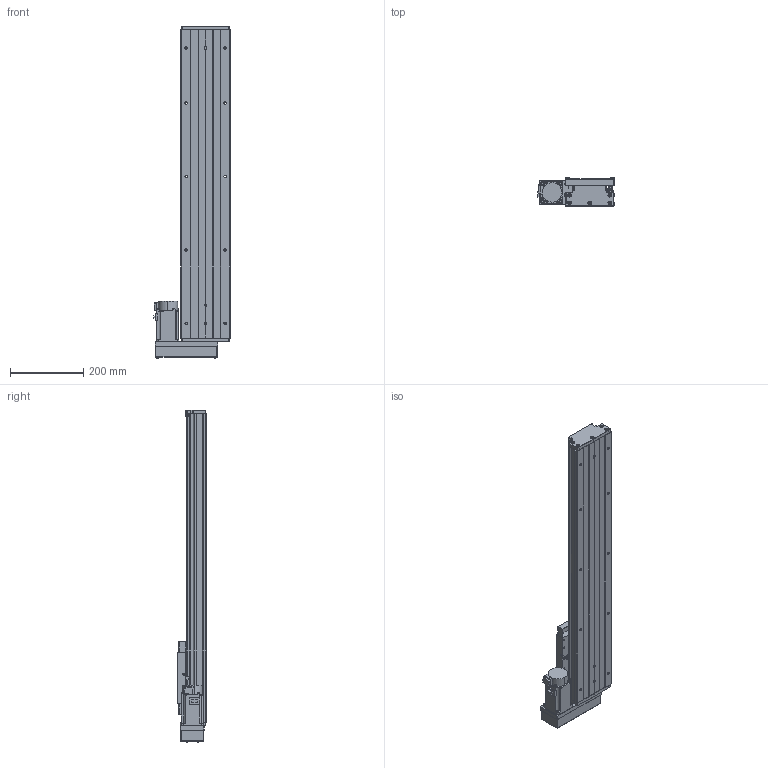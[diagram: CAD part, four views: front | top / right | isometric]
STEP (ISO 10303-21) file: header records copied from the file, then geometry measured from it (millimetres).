
FILE_DESCRIPTION (( 'STEP AP203' ), '1' );
FILE_NAME ('GTH14-600-BL-M40-C4.step', '2023-06-30T08:40:39', ( '微软用户' ), ( '微软中国' ), 'SwSTEP 2.0', 'SolidWorks 2020', '' );
FILE_SCHEMA (( 'CONFIG_CONTROL_DESIGN' ));
Length unit declared in the file: millimetre
Products named in the file (19): GBT 70.1-M3℅5; GTH14-015-2_CTHA86-015-2; GTH14-005; GBT77-2000 M3×3; GTH14-033; GB1155-6X6; GTH14-031; GTH14-600-BL-M40-C4; GBT70.1 M5℅16; GBT 70.2-M3¡Á5_M3¡Á6; CTHA60-017; す晦芛蹟隊 M3℅5; GTH14-001_600; EE_SX911P_R; HG-KN43J-S100; GTH14-002_GTH14-002; CTHA60-016; GBT 70.2-M4¡Á35_M4¡Á35; GTH14-004
Assembly tree (58 placements, depth 2):
  GTH14-600-BL-M40-C4
    GTH14-001_600
    GTH14-002_GTH14-002
    GTH14-004
    GTH14-005
    GB1155-6X6  x2
    GBT70.1 M5℅16  x10
    CTHA60-017  x3
    EE_SX911P_R  x3
    CTHA60-016  x2
    GBT 70.1-M3℅5  x6
    GBT77-2000 M3×3  x6
    GTH14-031
    GBT 70.2-M3¡Á5_M3¡Á6  x8
    す晦芛蹟隊 M3℅5  x6
    HG-KN43J-S100
    GBT 70.2-M4¡Á35_M4¡Á35  x4
    GTH14-015-2_CTHA86-015-2
    GTH14-033
Bounding box: 209.3 x 78 x 904.2 mm (x, y, z)
Volume: 5045546.5 mm3; surface area: 857501.4 mm2
Topology: 61 solids, 61 shells, 2453 faces, 5833 edges, 3594 vertices
Faces by surface type: plane 1307, cylinder 656, cone 314, torus 124, sphere 32, bspline 20
Entity records: 44158 total; most frequent: CARTESIAN_POINT 9857, DIRECTION 6489, ORIENTED_EDGE 6356, EDGE_CURVE 3178, AXIS2_PLACEMENT_3D 2218, VECTOR 2053, LINE 2053, VERTEX_POINT 2012
